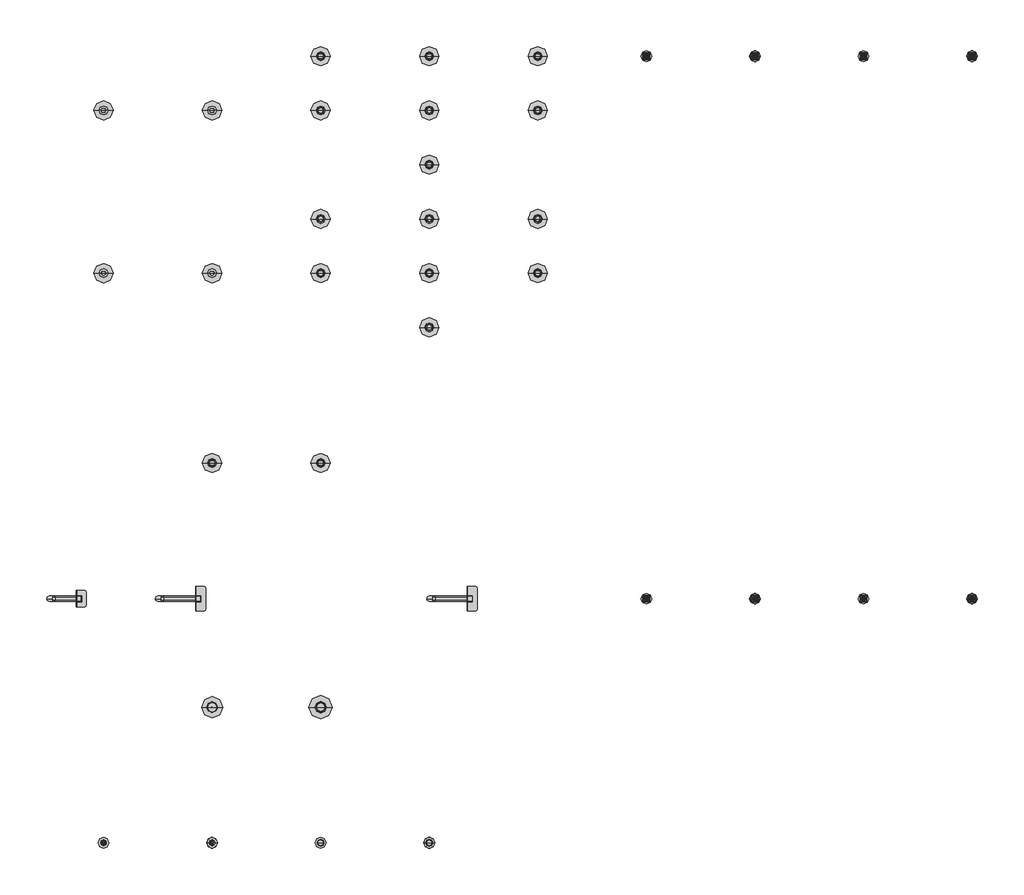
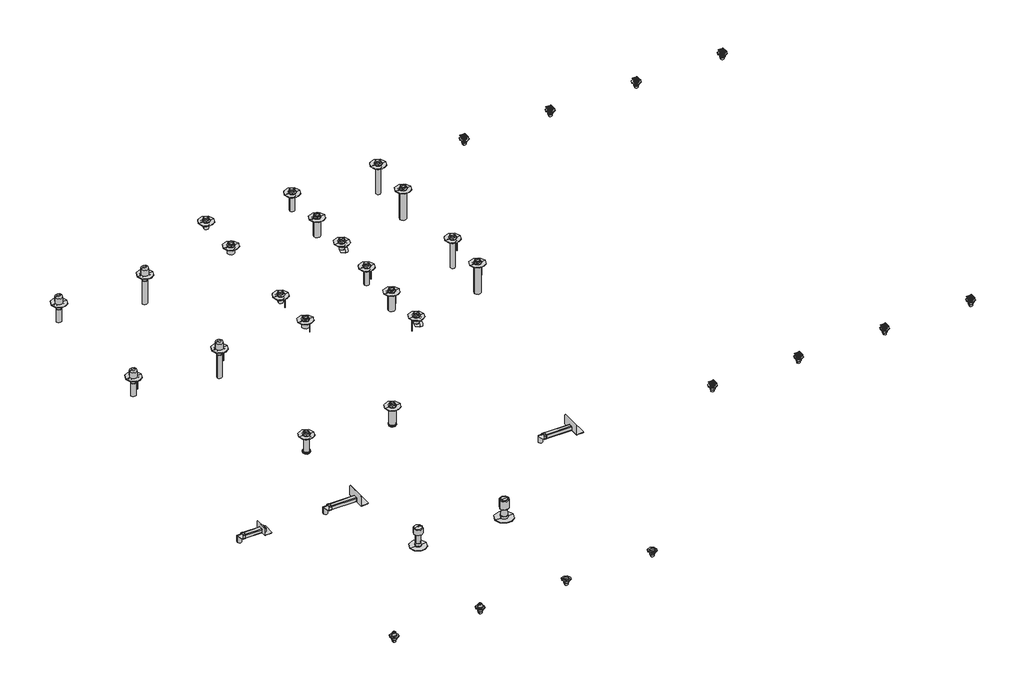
# One storey, incomplete: 37 flow terminals.
"""IFC4 building model written with IfcOpenShell, lengths in millimetres."""

from ifc_helpers import new_model, si_unit, origin, place, context, project, spatial, transform, mapped, element, save
from components import flow_terminal_da2fb88d, flow_terminal_b9ce92b6, flow_terminal_c421f7d6, flow_terminal_a2c307c8, flow_terminal_2865b695, flow_terminal_dcd2441b, flow_terminal_511c6f57, flow_terminal_46c1b343, flow_terminal_81f133e3, flow_terminal_62a79a80, flow_terminal_63c5b1d7, flow_terminal_177bc4c9, flow_terminal_25bab8c1, flow_terminal_64abd529, flow_terminal_ac1c9df8, flow_terminal_44ae2f01, flow_terminal_b570f936, flow_terminal_4346631b, flow_terminal_1fee66b7, flow_terminal_ee0323fd, flow_terminal_029b1803, flow_terminal_a2a1d550, flow_terminal_4cd8edcf, flow_terminal_f3b6e995, flow_terminal_e0a92d88, flow_terminal_f97ccfa4, flow_terminal_ce6f007e, flow_terminal_6b02ad8c, vb_310_0_f_e34d9685, vb_310_0_y_c46541a9, vb_310_1_f_da64b2c1, vb_310_1_y_fb8227c8

model = new_model("IFC4")

# Units and contexts
model_context = context("Model", 3, world=origin())
ifc_project = project(units=[si_unit("LENGTHUNIT", "METRE", prefix="MILLI")], contexts=[model_context])

# Site, building, storey
site = spatial("IfcSite", under=ifc_project)
building = spatial("IfcBuilding", under=site)
storey = spatial("IfcBuildingStorey", under=building, Name="Этаж 01", Elevation=0.0)

# Flow terminals
placement = place(None, origin())
flow_terminal_shape = flow_terminal_da2fb88d(model_context)
element("IfcFlowTerminal", 1, ObjectType="BIMLIB_Воронка_Кровельная_Fachmann_VO-PVC : 110х450", at=placement, inside=storey, context=model_context, shape_type="MappedRepresentation", body=[
    mapped(flow_terminal_shape, transform((-2425.1174034, -4856.0167242, 0.0), x_axis=(1.0, 0.0, 0.0), y_axis=(0.0, 1.0, 0.0), z_axis=(0.0, 0.0, 1.0))),
])
flow_terminal_2_shape = flow_terminal_b9ce92b6(model_context)
element("IfcFlowTerminal", 2, ObjectType="BIMLIB_Воронка_Кровельная_Fachmann_VO-PVC : 110х720", at=placement, inside=storey, context=model_context, shape_type="MappedRepresentation", body=[
    mapped(flow_terminal_2_shape, transform((-425.1174034, -4856.0167242, 0.0), x_axis=(1.0, 0.0, 0.0), y_axis=(0.0, 1.0, 0.0), z_axis=(0.0, 0.0, 1.0))),
])
flow_terminal_3_shape = flow_terminal_c421f7d6(model_context)
element("IfcFlowTerminal", 3, ObjectType="BIMLIB_Воронка_Кровельная_Fachmann_VM : 110х165", at=placement, inside=storey, context=model_context, shape_type="MappedRepresentation", body=[
    mapped(flow_terminal_3_shape, transform((1574.8825966, -856.0167242, 0.0), x_axis=(1.0, 0.0, 0.0), y_axis=(0.0, 1.0, 0.0), z_axis=(0.0, 0.0, 1.0))),
])
flow_terminal_4_shape = flow_terminal_a2c307c8(model_context)
element("IfcFlowTerminal", 4, ObjectType="BIMLIB_Воронка_Кровельная_Fachmann_VM : 110х450", at=placement, inside=storey, context=model_context, shape_type="MappedRepresentation", body=[
    mapped(flow_terminal_4_shape, transform((3574.8825966, -856.0167242, 0.0), x_axis=(1.0, 0.0, 0.0), y_axis=(0.0, 1.0, 0.0), z_axis=(0.0, 0.0, 1.0))),
])
flow_terminal_5_shape = flow_terminal_2865b695(model_context)
element("IfcFlowTerminal", 5, ObjectType="BIMLIB_Воронка_Кровельная_Fachmann_VM : 110х720", at=placement, inside=storey, context=model_context, shape_type="MappedRepresentation", body=[
    mapped(flow_terminal_5_shape, transform((5574.8825966, -856.0167242, 0.0), x_axis=(1.0, 0.0, 0.0), y_axis=(0.0, 1.0, 0.0), z_axis=(0.0, 0.0, 1.0))),
])
flow_terminal_6_shape = flow_terminal_dcd2441b(model_context)
element("IfcFlowTerminal", 6, ObjectType="BIMLIB_Воронка_Кровельная_Fachmann_VM : 160х165", at=placement, inside=storey, context=model_context, shape_type="MappedRepresentation", body=[
    mapped(flow_terminal_6_shape, transform((1574.8825966, -1856.0167242, 0.0), x_axis=(1.0, 0.0, 0.0), y_axis=(0.0, 1.0, 0.0), z_axis=(0.0, 0.0, 1.0))),
])
flow_terminal_7_shape = flow_terminal_511c6f57(model_context)
element("IfcFlowTerminal", 7, ObjectType="BIMLIB_Воронка_Кровельная_Fachmann_VM : 160х450", at=placement, inside=storey, context=model_context, shape_type="MappedRepresentation", body=[
    mapped(flow_terminal_7_shape, transform((3574.8825966, -1856.0167242, 0.0), x_axis=(1.0, 0.0, 0.0), y_axis=(0.0, 1.0, 0.0), z_axis=(0.0, 0.0, 1.0))),
])
flow_terminal_8_shape = flow_terminal_46c1b343(model_context)
element("IfcFlowTerminal", 8, ObjectType="BIMLIB_Воронка_Кровельная_Fachmann_VM : 160х720", at=placement, inside=storey, context=model_context, shape_type="MappedRepresentation", body=[
    mapped(flow_terminal_8_shape, transform((5574.8825966, -1856.0167242, 0.0), x_axis=(1.0, 0.0, 0.0), y_axis=(0.0, 1.0, 0.0), z_axis=(0.0, 0.0, 1.0))),
])
flow_terminal_9_shape = flow_terminal_81f133e3(model_context)
element("IfcFlowTerminal", 9, ObjectType="BIMLIB_Воронка_Кровельная_Fachmann_VMO : 110х165", at=placement, inside=storey, context=model_context, shape_type="MappedRepresentation", body=[
    mapped(flow_terminal_9_shape, transform((1574.8825966, -3856.0167242, 0.0), x_axis=(1.0, 0.0, 0.0), y_axis=(0.0, 1.0, 0.0), z_axis=(0.0, 0.0, 1.0))),
])
flow_terminal_10_shape = flow_terminal_62a79a80(model_context)
element("IfcFlowTerminal", 10, ObjectType="BIMLIB_Воронка_Кровельная_Fachmann_VMO : 110х450", at=placement, inside=storey, context=model_context, shape_type="MappedRepresentation", body=[
    mapped(flow_terminal_10_shape, transform((3574.8825966, -3856.0167242, 0.0), x_axis=(1.0, 0.0, 0.0), y_axis=(0.0, 1.0, 0.0), z_axis=(0.0, 0.0, 1.0))),
])
flow_terminal_11_shape = flow_terminal_63c5b1d7(model_context)
element("IfcFlowTerminal", 11, ObjectType="BIMLIB_Воронка_Кровельная_Fachmann_VMO : 110х720", at=placement, inside=storey, context=model_context, shape_type="MappedRepresentation", body=[
    mapped(flow_terminal_11_shape, transform((5574.8825966, -3856.0167242, 0.0), x_axis=(1.0, 0.0, 0.0), y_axis=(0.0, 1.0, 0.0), z_axis=(0.0, 0.0, 1.0))),
])
flow_terminal_12_shape = flow_terminal_177bc4c9(model_context)
element("IfcFlowTerminal", 12, ObjectType="BIMLIB_Воронка_Кровельная_Fachmann_VMO : 160х165", at=placement, inside=storey, context=model_context, shape_type="MappedRepresentation", body=[
    mapped(flow_terminal_12_shape, transform((1574.8825966, -4856.0167242, 0.0), x_axis=(1.0, 0.0, 0.0), y_axis=(0.0, 1.0, 0.0), z_axis=(0.0, 0.0, 1.0))),
])
flow_terminal_13_shape = flow_terminal_25bab8c1(model_context)
element("IfcFlowTerminal", 13, ObjectType="BIMLIB_Воронка_Кровельная_Fachmann_VMO : 160х450", at=placement, inside=storey, context=model_context, shape_type="MappedRepresentation", body=[
    mapped(flow_terminal_13_shape, transform((3574.8825966, -4856.0167242, 0.0), x_axis=(1.0, 0.0, 0.0), y_axis=(0.0, 1.0, 0.0), z_axis=(0.0, 0.0, 1.0))),
])
flow_terminal_14_shape = flow_terminal_64abd529(model_context)
element("IfcFlowTerminal", 14, ObjectType="BIMLIB_Воронка_Кровельная_Fachmann_VMO : 160х720", at=placement, inside=storey, context=model_context, shape_type="MappedRepresentation", body=[
    mapped(flow_terminal_14_shape, transform((5574.8825966, -4856.0167242, 0.0), x_axis=(1.0, 0.0, 0.0), y_axis=(0.0, 1.0, 0.0), z_axis=(0.0, 0.0, 1.0))),
])
flow_terminal_15_shape = flow_terminal_ac1c9df8(model_context)
element("IfcFlowTerminal", 15, ObjectType="BIMLIB_Воронка_Кровельная_Fachmann_VMC : 110х165", at=placement, inside=storey, context=model_context, shape_type="MappedRepresentation", body=[
    mapped(flow_terminal_15_shape, transform((3574.8825966, -2856.0167242, 0.0), x_axis=(1.0, 0.0, 0.0), y_axis=(0.0, 1.0, 0.0), z_axis=(0.0, 0.0, 1.0))),
])
flow_terminal_16_shape = flow_terminal_44ae2f01(model_context)
element("IfcFlowTerminal", 16, ObjectType="BIMLIB_Воронка_Кровельная_Fachmann_VMCO : 110х165", at=placement, inside=storey, context=model_context, shape_type="MappedRepresentation", body=[
    mapped(flow_terminal_16_shape, transform((3574.8825966, -5856.0167242, 0.0), x_axis=(1.0, 0.0, 0.0), y_axis=(0.0, 1.0, 0.0), z_axis=(0.0, 0.0, 1.0))),
])
flow_terminal_17_shape = flow_terminal_b570f936(model_context)
element("IfcFlowTerminal", 17, ObjectType="BIMLIB_Аэратор_Fachmann_А110Y : А110Y", at=placement, inside=storey, context=model_context, shape_type="MappedRepresentation", body=[
    mapped(flow_terminal_17_shape, transform((-425.1174034, -12856.0167242, 0.0), x_axis=(1.0, 0.0, 0.0), y_axis=(0.0, 1.0, 0.0), z_axis=(0.0, 0.0, 1.0))),
])
flow_terminal_18_shape = flow_terminal_4346631b(model_context)
element("IfcFlowTerminal", 18, ObjectType="BIMLIB_Аэратор_Fachmann_А160х460 : А160х460", at=placement, inside=storey, context=model_context, shape_type="MappedRepresentation", body=[
    mapped(flow_terminal_18_shape, transform((1574.8825966, -12856.0167242, 0.0), x_axis=(1.0, 0.0, 0.0), y_axis=(0.0, 1.0, 0.0), z_axis=(0.0, 0.0, 1.0))),
])
flow_terminal_19_shape = flow_terminal_1fee66b7(model_context)
element("IfcFlowTerminal", 19, ObjectType="BIMLIB_НадставнойЭлемент_Fachmann_VMN : 110х450", at=placement, inside=storey, context=model_context, shape_type="MappedRepresentation", body=[
    mapped(flow_terminal_19_shape, transform((-425.1174034, -8356.0167242, 0.0), x_axis=(1.0, 0.0, 0.0), y_axis=(0.0, 1.0, 0.0), z_axis=(0.0, 0.0, 1.0))),
])
flow_terminal_20_shape = flow_terminal_ee0323fd(model_context)
element("IfcFlowTerminal", 20, ObjectType="BIMLIB_НадставнойЭлемент_Fachmann_VMN : 160х450", at=placement, inside=storey, context=model_context, shape_type="MappedRepresentation", body=[
    mapped(flow_terminal_20_shape, transform((1574.8825966, -8356.0167242, 0.0), x_axis=(1.0, 0.0, 0.0), y_axis=(0.0, 1.0, 0.0), z_axis=(0.0, 0.0, 1.0))),
])
flow_terminal_21_shape = flow_terminal_029b1803(model_context)
element("IfcFlowTerminal", 21, ObjectType="BIMLIB_Воронка_Парапетная_Fachmann_VC-PVC : 100х100х650", at=placement, inside=storey, context=model_context, shape_type="MappedRepresentation", body=[
    mapped(flow_terminal_21_shape, transform((-1425.1174034, -10856.0167242, 0.0), x_axis=(0.0, 1.0, 0.0), y_axis=(-1.0, 0.0, 0.0), z_axis=(0.0, 0.0, 1.0))),
])
flow_terminal_22_shape = flow_terminal_a2a1d550(model_context)
element("IfcFlowTerminal", 22, ObjectType="BIMLIB_Воронка_Парапетная_Fachmann_VC-PVC : 100х100х450", at=placement, inside=storey, context=model_context, shape_type="MappedRepresentation", body=[
    mapped(flow_terminal_22_shape, transform((-3425.1174034, -10856.0167242, 0.0), x_axis=(0.0, 1.0, 0.0), y_axis=(-1.0, 0.0, 0.0), z_axis=(0.0, 0.0, 1.0))),
])
element("IfcFlowTerminal", 23, ObjectType="BIMLIB_Воронка_Парапетная_Fachmann_VC-PP : 100х100х650", at=placement, inside=storey, context=model_context, shape_type="MappedRepresentation", body=[
    mapped(flow_terminal_21_shape, transform((3574.8825966, -10856.0167242, 0.0), x_axis=(0.0, 1.0, 0.0), y_axis=(-1.0, 0.0, 0.0), z_axis=(0.0, 0.0, 1.0))),
])
flow_terminal_23_shape = flow_terminal_4cd8edcf(model_context)
element("IfcFlowTerminal", 24, ObjectType="BIMLIB_Воронка_Кровельная_Fachmann_V-PVC : 110х450", at=placement, inside=storey, context=model_context, shape_type="MappedRepresentation", body=[
    mapped(flow_terminal_23_shape, transform((-2425.1174034, -1856.0167242, 0.0), x_axis=(1.0, 0.0, 0.0), y_axis=(0.0, 1.0, 0.0), z_axis=(0.0, 0.0, 1.0))),
])
flow_terminal_24_shape = flow_terminal_f3b6e995(model_context)
element("IfcFlowTerminal", 25, ObjectType="BIMLIB_Воронка_Кровельная_Fachmann_V-PVC : 110х720", at=placement, inside=storey, context=model_context, shape_type="MappedRepresentation", body=[
    mapped(flow_terminal_24_shape, transform((-425.1174034, -1856.0167242, 0.0), x_axis=(1.0, 0.0, 0.0), y_axis=(0.0, 1.0, 0.0), z_axis=(0.0, 0.0, 1.0))),
])
flow_terminal_25_shape = flow_terminal_e0a92d88(model_context)
flow_terminal_26_shape = flow_terminal_f97ccfa4(model_context)
element("IfcFlowTerminal", 26, ObjectType="BIMLIB_Трап_Балконный_Fachmann_310СВертикальнымВыпускомРегулируемый : 04.017 T 310.0 SOsP", at=placement, inside=storey, context=model_context, shape_type="MappedRepresentation", body=[
    mapped(flow_terminal_25_shape, transform((7574.8825966, -856.0167242, 0.0), x_axis=(1.0, 0.0, 0.0), y_axis=(0.0, 1.0, 0.0), z_axis=(0.0, 0.0, 1.0))),
    mapped(flow_terminal_26_shape, transform((7574.8825966, -856.0167242, 0.0), x_axis=(1.0, 0.0, 0.0), y_axis=(0.0, 1.0, 0.0), z_axis=(0.0, 0.0, 1.0))),
])
flow_terminal_27_shape = flow_terminal_ce6f007e(model_context)
flow_terminal_28_shape = flow_terminal_6b02ad8c(model_context)
element("IfcFlowTerminal", 27, ObjectType="BIMLIB_Трап_Балконный_Fachmann_310СВертикальнымВыпускомРегулируемый : 04.018 T 310.1 SOsP", at=placement, inside=storey, context=model_context, shape_type="MappedRepresentation", body=[
    mapped(flow_terminal_27_shape, transform((9574.8825966, -856.0167242, 0.0), x_axis=(1.0, 0.0, 0.0), y_axis=(0.0, 1.0, 0.0), z_axis=(0.0, 0.0, 1.0))),
    mapped(flow_terminal_28_shape, transform((9574.8825966, -856.0167242, 0.0), x_axis=(1.0, 0.0, 0.0), y_axis=(0.0, 1.0, 0.0), z_axis=(0.0, 0.0, 1.0))),
])
element("IfcFlowTerminal", 28, ObjectType="BIMLIB_Трап_Балконный_Fachmann_310СВертикальнымВыпускомРегулируемый : 04.019 T 310.0 SNsP", at=placement, inside=storey, context=model_context, shape_type="MappedRepresentation", body=[
    mapped(flow_terminal_25_shape, transform((11574.8825966, -856.0167242, 0.0), x_axis=(1.0, 0.0, 0.0), y_axis=(0.0, 1.0, 0.0), z_axis=(0.0, 0.0, 1.0))),
    mapped(flow_terminal_26_shape, transform((11574.8825966, -856.0167242, 0.0), x_axis=(1.0, 0.0, 0.0), y_axis=(0.0, 1.0, 0.0), z_axis=(0.0, 0.0, 1.0))),
])
element("IfcFlowTerminal", 29, ObjectType="BIMLIB_Трап_Балконный_Fachmann_310СВертикальнымВыпускомРегулируемый : 04.020 T 310.1 SNsP", at=placement, inside=storey, context=model_context, shape_type="MappedRepresentation", body=[
    mapped(flow_terminal_27_shape, transform((13574.8825966, -856.0167242, 0.0), x_axis=(1.0, 0.0, 0.0), y_axis=(0.0, 1.0, 0.0), z_axis=(0.0, 0.0, 1.0))),
    mapped(flow_terminal_28_shape, transform((13574.8825966, -856.0167242, 0.0), x_axis=(1.0, 0.0, 0.0), y_axis=(0.0, 1.0, 0.0), z_axis=(0.0, 0.0, 1.0))),
])
element("IfcFlowTerminal", 30, ObjectType="BIMLIB_Трап_ДляВнутреннихПомещений_Fachmann_310СВертикальнымВыпускомРегулируемый : 04.053 T 310.0 SHsP", at=placement, inside=storey, context=model_context, shape_type="MappedRepresentation", body=[
    mapped(flow_terminal_25_shape, transform((7574.8825966, -10856.0167242, 0.0), x_axis=(1.0, 0.0, 0.0), y_axis=(0.0, 1.0, 0.0), z_axis=(0.0, 0.0, 1.0))),
    mapped(flow_terminal_26_shape, transform((7574.8825966, -10856.0167242, 0.0), x_axis=(1.0, 0.0, 0.0), y_axis=(0.0, 1.0, 0.0), z_axis=(0.0, 0.0, 1.0))),
])
element("IfcFlowTerminal", 31, ObjectType="BIMLIB_Трап_ДляВнутреннихПомещений_Fachmann_310СВертикальнымВыпускомРегулируемый : 04.054 T 310.1 SHsP", at=placement, inside=storey, context=model_context, shape_type="MappedRepresentation", body=[
    mapped(flow_terminal_27_shape, transform((9574.8825966, -10856.0167242, 0.0), x_axis=(1.0, 0.0, 0.0), y_axis=(0.0, 1.0, 0.0), z_axis=(0.0, 0.0, 1.0))),
    mapped(flow_terminal_28_shape, transform((9574.8825966, -10856.0167242, 0.0), x_axis=(1.0, 0.0, 0.0), y_axis=(0.0, 1.0, 0.0), z_axis=(0.0, 0.0, 1.0))),
])
element("IfcFlowTerminal", 32, ObjectType="BIMLIB_Трап_ДляВнутреннихПомещений_Fachmann_310СВертикальнымВыпускомРегулируемый : 04.055 T 310.0 SDsP", at=placement, inside=storey, context=model_context, shape_type="MappedRepresentation", body=[
    mapped(flow_terminal_25_shape, transform((11574.8825966, -10856.0167242, 0.0), x_axis=(1.0, 0.0, 0.0), y_axis=(0.0, 1.0, 0.0), z_axis=(0.0, 0.0, 1.0))),
    mapped(flow_terminal_26_shape, transform((11574.8825966, -10856.0167242, 0.0), x_axis=(1.0, 0.0, 0.0), y_axis=(0.0, 1.0, 0.0), z_axis=(0.0, 0.0, 1.0))),
])
element("IfcFlowTerminal", 33, ObjectType="BIMLIB_Трап_ДляВнутреннихПомещений_Fachmann_310СВертикальнымВыпускомРегулируемый : 04.056 T 310.1 SDsP", at=placement, inside=storey, context=model_context, shape_type="MappedRepresentation", body=[
    mapped(flow_terminal_27_shape, transform((13574.8825966, -10856.0167242, 0.0), x_axis=(1.0, 0.0, 0.0), y_axis=(0.0, 1.0, 0.0), z_axis=(0.0, 0.0, 1.0))),
    mapped(flow_terminal_28_shape, transform((13574.8825966, -10856.0167242, 0.0), x_axis=(1.0, 0.0, 0.0), y_axis=(0.0, 1.0, 0.0), z_axis=(0.0, 0.0, 1.0))),
])
vb_310_0_f_shape = vb_310_0_f_e34d9685(model_context)
element("IfcFlowTerminal", 34, ObjectType="BIMLIB_Воронка_Балконная_Fachmann_310СВертикальнымВыпуском : VB 310.0 F", at=placement, inside=storey, context=model_context, shape_type="MappedRepresentation", body=[
    mapped(vb_310_0_f_shape, transform((1574.8825966, -15356.0167242, 0.0), x_axis=(1.0, 0.0, 0.0), y_axis=(0.0, 1.0, 0.0), z_axis=(0.0, 0.0, 1.0))),
])
vb_310_0_y_shape = vb_310_0_y_c46541a9(model_context)
element("IfcFlowTerminal", 35, ObjectType="BIMLIB_Воронка_Балконная_Fachmann_310СВертикальнымВыпуском : VB 310.0 Y", at=placement, inside=storey, context=model_context, shape_type="MappedRepresentation", body=[
    mapped(vb_310_0_y_shape, transform((-2425.1174034, -15356.0167242, 0.0), x_axis=(1.0, 0.0, 0.0), y_axis=(0.0, 1.0, 0.0), z_axis=(0.0, 0.0, 1.0))),
])
vb_310_1_f_shape = vb_310_1_f_da64b2c1(model_context)
element("IfcFlowTerminal", 36, ObjectType="BIMLIB_Воронка_Балконная_Fachmann_310СВертикальнымВыпуском : VB 310.1 F", at=placement, inside=storey, context=model_context, shape_type="MappedRepresentation", body=[
    mapped(vb_310_1_f_shape, transform((3574.8825966, -15356.0167242, 0.0), x_axis=(1.0, 0.0, 0.0), y_axis=(0.0, 1.0, 0.0), z_axis=(0.0, 0.0, 1.0))),
])
vb_310_1_y_shape = vb_310_1_y_fb8227c8(model_context)
element("IfcFlowTerminal", 37, ObjectType="BIMLIB_Воронка_Балконная_Fachmann_310СВертикальнымВыпуском : VB 310.1 Y", at=placement, inside=storey, context=model_context, shape_type="MappedRepresentation", body=[
    mapped(vb_310_1_y_shape, transform((-425.1174034, -15356.0167242, 0.0), x_axis=(1.0, 0.0, 0.0), y_axis=(0.0, 1.0, 0.0), z_axis=(0.0, 0.0, 1.0))),
])

save(model, "model.ifc")
